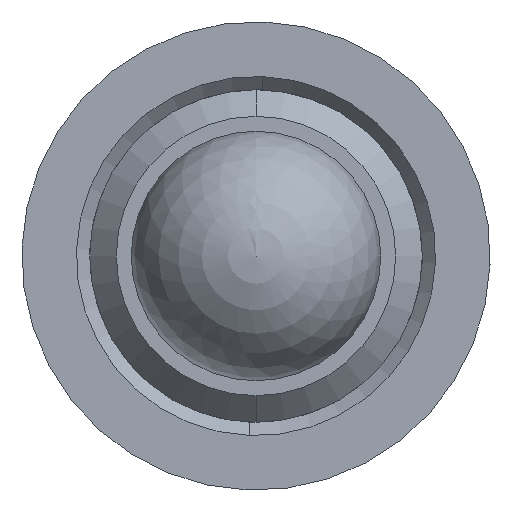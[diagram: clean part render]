
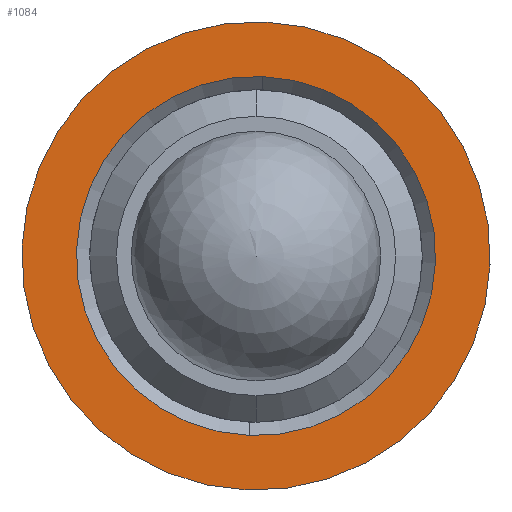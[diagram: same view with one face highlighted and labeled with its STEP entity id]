
A CAD part, left-side view. The second image highlights one B-rep face of the part: STEP entity #1084.
In plain terms, the highlighted planar face has unit normal (-1, 0, 0).
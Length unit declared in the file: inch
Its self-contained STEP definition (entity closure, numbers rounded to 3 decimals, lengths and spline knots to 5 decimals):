
#24 = AXIS2_PLACEMENT_3D ( 'NONE', #383, #379, #368 ) ;
#94 = CIRCLE ( 'NONE', #178, 0.135 ) ;
#139 = CARTESIAN_POINT ( 'NONE',  ( 0.04882, 1.04627, 1.28218 ) ) ;
#178 = AXIS2_PLACEMENT_3D ( 'NONE', #350, #347, #333 ) ;
#225 = EDGE_CURVE ( 'NONE', #1506, #418, #742, .T. ) ;
#227 = DIRECTION ( 'NONE',  ( 0., 0.038, -0.999 ) ) ;
#234 = DIRECTION ( 'NONE',  ( 1., 0., 0. ) ) ;
#244 = CARTESIAN_POINT ( 'NONE',  ( 0.04882, 1.04111, 1.41708 ) ) ;
#298 = DIRECTION ( 'NONE',  ( 1., 0., 0. ) ) ;
#333 = DIRECTION ( 'NONE',  ( 0., 0.038, -0.999 ) ) ;
#347 = DIRECTION ( 'NONE',  ( 1., 0., 0. ) ) ;
#350 = CARTESIAN_POINT ( 'NONE',  ( 0.04882, 1.04111, 1.41708 ) ) ;
#362 = PLANE ( 'NONE',  #907 ) ;
#368 = DIRECTION ( 'NONE',  ( 0., -0.038, 0.999 ) ) ;
#379 = DIRECTION ( 'NONE',  ( -1., 0., 0. ) ) ;
#383 = CARTESIAN_POINT ( 'NONE',  ( 0.04882, 1.04111, 1.41708 ) ) ;
#418 = VERTEX_POINT ( 'NONE', #947 ) ;
#504 = ORIENTED_EDGE ( 'NONE', *, *, #728, .T. ) ;
#592 = FACE_BOUND ( 'NONE', #1025, .T. ) ;
#594 = VERTEX_POINT ( 'NONE', #681 ) ;
#660 = CARTESIAN_POINT ( 'NONE',  ( 0.04882, 1.04784, 1.24121 ) ) ;
#665 = ORIENTED_EDGE ( 'NONE', *, *, #225, .T. ) ;
#681 = CARTESIAN_POINT ( 'NONE',  ( 0.04882, 1.03594, 1.55198 ) ) ;
#693 = AXIS2_PLACEMENT_3D ( 'NONE', #1503, #1486, #1501 ) ;
#702 = EDGE_CURVE ( 'NONE', #418, #1506, #1312, .T. ) ;
#728 = EDGE_CURVE ( 'NONE', #594, #1368, #94, .T. ) ;
#742 = CIRCLE ( 'NONE', #693, 0.176 ) ;
#756 = AXIS2_PLACEMENT_3D ( 'NONE', #854, #298, #834 ) ;
#834 = DIRECTION ( 'NONE',  ( 0., 0.038, -0.999 ) ) ;
#854 = CARTESIAN_POINT ( 'NONE',  ( 0.04882, 1.04111, 1.41708 ) ) ;
#865 = ORIENTED_EDGE ( 'NONE', *, *, #702, .T. ) ;
#907 = AXIS2_PLACEMENT_3D ( 'NONE', #244, #234, #227 ) ;
#947 = CARTESIAN_POINT ( 'NONE',  ( 0.04882, 1.03437, 1.59295 ) ) ;
#1025 = EDGE_LOOP ( 'NONE', ( #504, #1454 ) ) ;
#1084 = ADVANCED_FACE ( 'NONE', ( #592, #1222 ), #362, .F. ) ;
#1222 = FACE_OUTER_BOUND ( 'NONE', #1496, .T. ) ;
#1312 = CIRCLE ( 'NONE', #24, 0.176 ) ;
#1368 = VERTEX_POINT ( 'NONE', #139 ) ;
#1454 = ORIENTED_EDGE ( 'NONE', *, *, #1516, .T. ) ;
#1486 = DIRECTION ( 'NONE',  ( -1., 0., 0. ) ) ;
#1496 = EDGE_LOOP ( 'NONE', ( #865, #665 ) ) ;
#1501 = DIRECTION ( 'NONE',  ( 0., -0.038, 0.999 ) ) ;
#1503 = CARTESIAN_POINT ( 'NONE',  ( 0.04882, 1.04111, 1.41708 ) ) ;
#1506 = VERTEX_POINT ( 'NONE', #660 ) ;
#1509 = CIRCLE ( 'NONE', #756, 0.135 ) ;
#1516 = EDGE_CURVE ( 'NONE', #1368, #594, #1509, .T. ) ;
